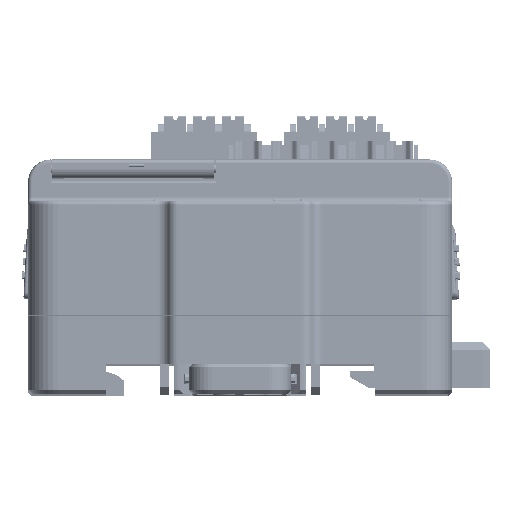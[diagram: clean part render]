
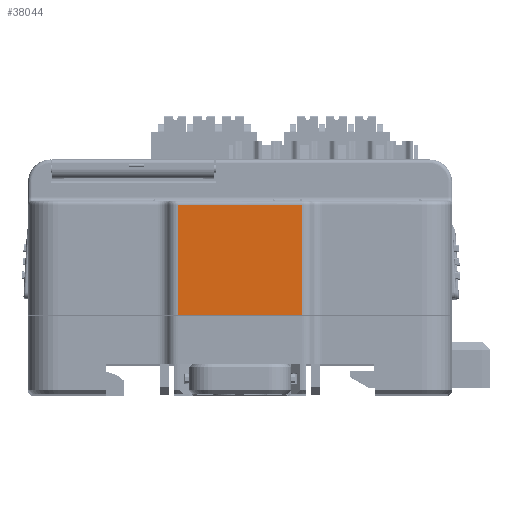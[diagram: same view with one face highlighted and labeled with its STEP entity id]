
A CAD part, top view. The second image highlights one B-rep face of the part: STEP entity #38044.
In plain terms, the highlighted planar face has unit normal (0, 0, 1).
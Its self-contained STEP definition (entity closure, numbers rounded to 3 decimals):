
#2663=B_SPLINE_CURVE_WITH_KNOTS('',3,(#460649,#460650,#460651,#460652),
 .UNSPECIFIED.,.F.,.F.,(4,4),(0.,1.),.UNSPECIFIED.);
#2664=B_SPLINE_CURVE_WITH_KNOTS('',1,(#460654,#460655,#460656,#460657,#460658,
#460659),.UNSPECIFIED.,.F.,.F.,(2,1,1,1,1,2),(0.,0.115,0.204,
0.796,0.885,1.),.UNSPECIFIED.);
#21865=FACE_OUTER_BOUND('',#68569,.T.);
#38044=ADVANCED_FACE('',(#21865),#53265,.T.);
#53265=PLANE('',#321533);
#68569=EDGE_LOOP('',(#109257,#109258,#109259,#109260));
#109257=ORIENTED_EDGE('',*,*,#214916,.T.);
#109258=ORIENTED_EDGE('',*,*,#215057,.F.);
#109259=ORIENTED_EDGE('',*,*,#214533,.F.);
#109260=ORIENTED_EDGE('',*,*,#215058,.T.);
#180151=VERTEX_POINT('',#458989);
#180152=VERTEX_POINT('',#458991);
#180461=VERTEX_POINT('',#460249);
#180464=VERTEX_POINT('',#460260);
#214533=EDGE_CURVE('',#180151,#180152,#256172,.T.);
#214916=EDGE_CURVE('',#180461,#180464,#256449,.T.);
#215057=EDGE_CURVE('',#180152,#180464,#2663,.T.);
#215058=EDGE_CURVE('',#180151,#180461,#2664,.T.);
#256172=LINE('',#458990,#290186);
#256449=LINE('',#460261,#290463);
#290186=VECTOR('',#363324,1.);
#290463=VECTOR('',#363813,1.);
#321533=AXIS2_PLACEMENT_3D('',#460660,#364107,#364108);
#363324=DIRECTION('',(-1.,0.,0.));
#363813=DIRECTION('',(-1.,0.,0.));
#364107=DIRECTION('',(0.,0.,1.));
#364108=DIRECTION('',(-1.,0.,0.));
#458989=CARTESIAN_POINT('',(-396.391,158.747,649.638));
#458990=CARTESIAN_POINT('',(-376.588,158.747,649.638));
#458991=CARTESIAN_POINT('',(-412.785,158.747,649.638));
#460249=CARTESIAN_POINT('',(-396.391,173.342,649.638));
#460260=CARTESIAN_POINT('',(-412.785,173.342,649.638));
#460261=CARTESIAN_POINT('',(-396.391,173.342,649.638));
#460649=CARTESIAN_POINT('',(-412.785,158.747,649.638));
#460650=CARTESIAN_POINT('',(-412.785,163.612,649.638));
#460651=CARTESIAN_POINT('',(-412.785,168.477,649.638));
#460652=CARTESIAN_POINT('',(-412.785,173.342,649.638));
#460654=CARTESIAN_POINT('',(-396.391,151.232,649.638));
#460655=CARTESIAN_POINT('',(-396.391,154.293,649.638));
#460656=CARTESIAN_POINT('',(-396.391,156.647,649.638));
#460657=CARTESIAN_POINT('',(-396.391,172.342,649.638));
#460658=CARTESIAN_POINT('',(-396.391,174.696,649.638));
#460659=CARTESIAN_POINT('',(-396.391,177.756,649.638));
#460660=CARTESIAN_POINT('',(-396.391,172.342,649.638));
